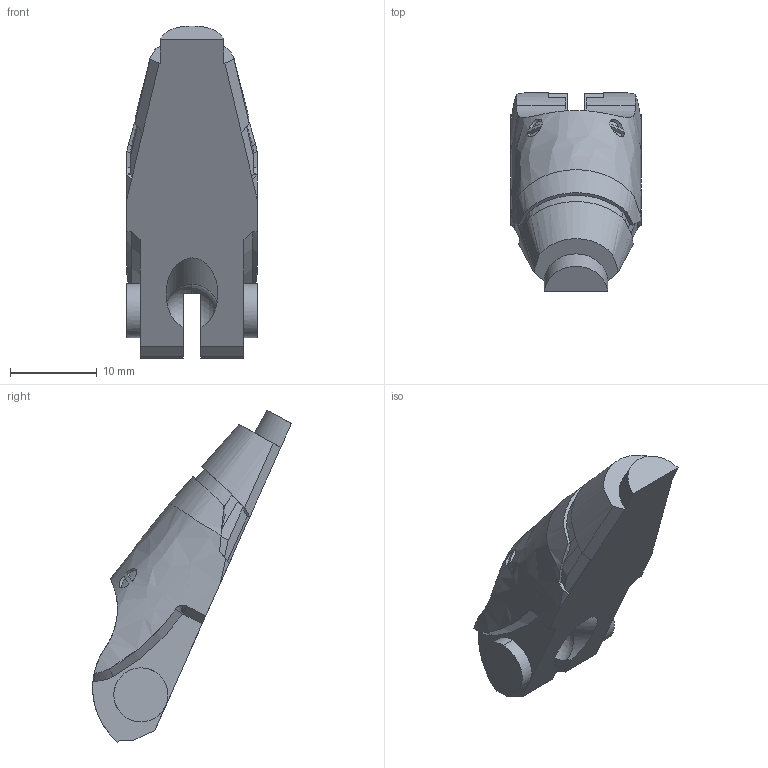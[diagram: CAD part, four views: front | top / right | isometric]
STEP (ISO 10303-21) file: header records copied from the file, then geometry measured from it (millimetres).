
FILE_DESCRIPTION (( 'STEP AP214' ), '1' );
FILE_NAME ('B1-head-head.step', '2023-08-03T13:47:38', ( '' ), ( '' ), 'SwSTEP 2.0', 'SolidWorks 2020', '' );
FILE_SCHEMA (( 'AUTOMOTIVE_DESIGN' ));
Length unit declared in the file: millimetre
Products named in the file (1): B1-head-head
Bounding box: 15.03 x 22.94 x 38.31 mm (x, y, z)
Volume: 3729 mm3; surface area: 2150.4 mm2
Topology: 1 solids, 1 shells, 118 faces, 332 edges, 217 vertices
Faces by surface type: bspline 56, plane 36, cylinder 16, cone 8, sphere 2
Entity records: 17511 total; most frequent: CARTESIAN_POINT 15019, ORIENTED_EDGE 646, EDGE_CURVE 323, DIRECTION 285, VERTEX_POINT 213, B_SPLINE_CURVE_WITH_KNOTS 197, EDGE_LOOP 124, ADVANCED_FACE 118
